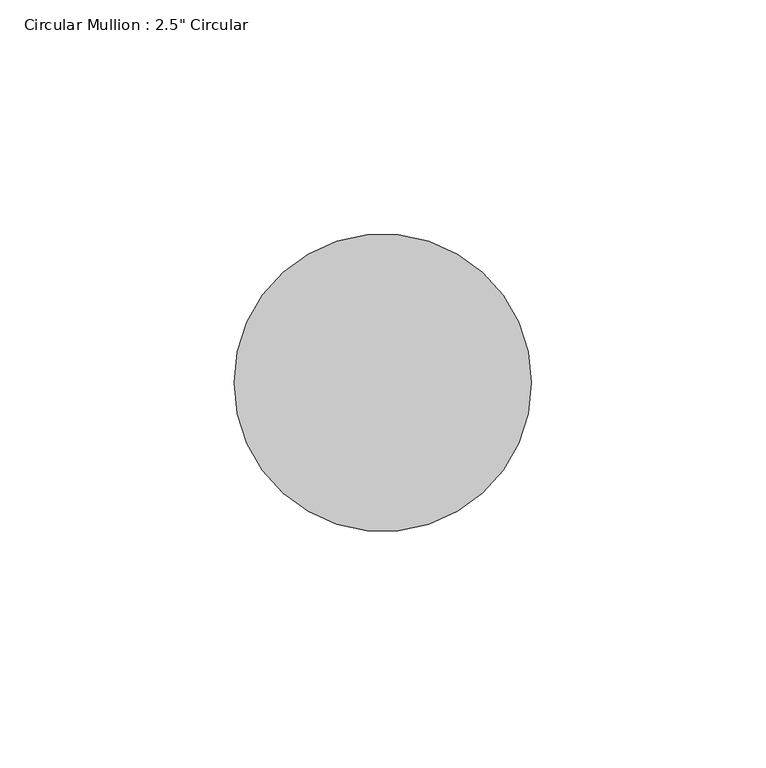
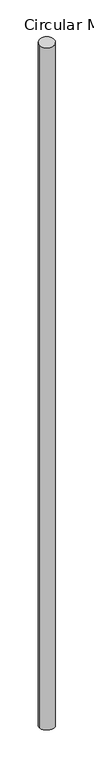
"""IFC4 building model written with IfcOpenShell, lengths in millimetres: member geometry."""

from ifc_helpers import new_model, si_unit, frame, origin, place, context, project, spatial, ellipse_curve, source, transform, mapped, element, save
from ifc_brep_helpers import plane_surface, cylinder_surface, advanced_brep


def member_82034386(model_context):
    return source(origin(), model_context, "Body", "AdvancedBrep", [
        advanced_brep(
        [(-63.5, 0.0, -3.1858374), (0.0, 0.0, 0.0), (0.0, 0.0, -3047.006781), (-63.5, 0.0, -3044.1290268)],
        [
            (0, 1, ellipse_curve(frame((-31.75, 0.0, -1.5929187), z_axis=(0.04984347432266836, 0.10254918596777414, -0.9934783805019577), x_axis=(0.43429340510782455, 0.8935258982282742, 0.11402064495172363)), 31.9584207, 31.75)),
            (1, 2),
            (2, 3, ellipse_curve(frame((-31.75, 0.0, -3045.5679039), z_axis=(0.045105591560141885, 0.08578939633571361, 0.9952917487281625), x_axis=(-0.4631778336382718, -0.8809494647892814, 0.09692437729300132)), 31.9001941, 31.75)),
            (3, 0),
            (1, 0, ellipse_curve(frame((-31.75, 0.0, -1.5929187), z_axis=(0.04984347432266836, 0.10254918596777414, -0.9934783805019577), x_axis=(0.43429340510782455, 0.8935258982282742, 0.11402064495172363)), 31.9584207, 31.75)),
            (3, 2, ellipse_curve(frame((-31.75, 0.0, -3045.5679039), z_axis=(0.045105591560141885, 0.08578939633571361, 0.9952917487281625), x_axis=(-0.4631778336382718, -0.8809494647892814, 0.09692437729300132)), 31.9001941, 31.75)),
        ],
        [
            cylinder_surface(frame((-31.75, 0.0, 0.0), z_axis=(0.0, 0.0, 1.0), x_axis=(1.0, 0.0, 0.0)), 31.75),
            plane_surface(frame((274.1344946, -133.2415808, 0.0), z_axis=(-0.04984347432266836, -0.10254918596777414, 0.9934783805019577), x_axis=(-0.4342934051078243, -0.8935258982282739, -0.11402064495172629))),
            plane_surface(frame((269.7836059, -141.844443, -3047.006781), z_axis=(-0.045105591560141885, -0.08578939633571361, -0.9952917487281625), x_axis=(-0.46317783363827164, -0.8809494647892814, 0.09692437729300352))),
        ],
        [
            (0, [[1, 2, 3, 4]]),
            (0, [[5, -4, 6, -2]]),
            (1, [[-1, -5]]),
            (2, [[-6, -3]]),
        ],
    ),
    ])


if __name__ == "__main__":
    model = new_model("IFC4")
    model_context = context("Model", 3, world=origin())
    ifc_project = project(units=[si_unit("LENGTHUNIT", "METRE", prefix="MILLI")], contexts=[model_context])
    site = spatial("IfcSite", under=ifc_project)
    building = spatial("IfcBuilding", under=site)
    placement = place(None, origin())
    member_shape = member_82034386(model_context)
    element("IfcMember", 1, ObjectType="Circular Mullion : 2.5\" Circular", at=placement, inside=building, context=model_context, shape_type="MappedRepresentation", body=[
        mapped(member_shape, transform((0.0, 0.0, 0.0), x_axis=(1.0, 0.0, 0.0), y_axis=(0.0, 1.0, 0.0), z_axis=(0.0, 0.0, 1.0))),
    ])
    save(model, "model.ifc")
